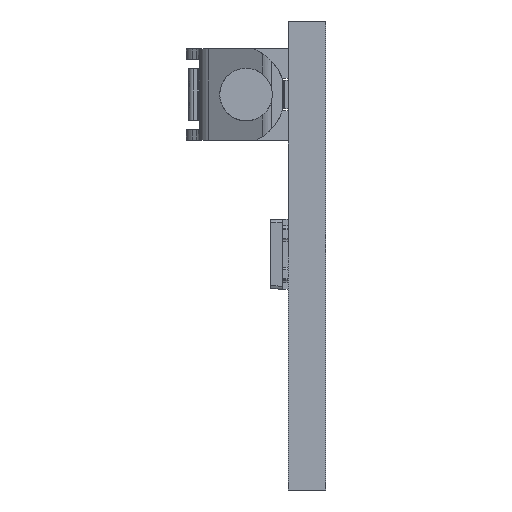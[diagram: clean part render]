
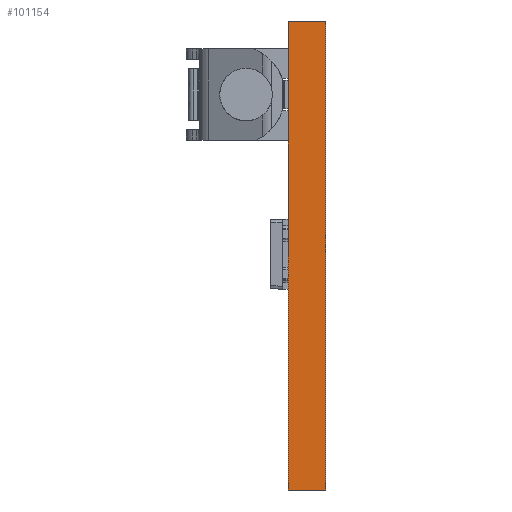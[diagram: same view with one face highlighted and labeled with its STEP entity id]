
A CAD part, left-side view. The second image highlights one B-rep face of the part: STEP entity #101154.
In plain terms, the highlighted planar face has unit normal (-1, 0, 0).
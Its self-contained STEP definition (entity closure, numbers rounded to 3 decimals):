
#9902=DIRECTION('',(0.,0.,1.));
#9903=VECTOR('',#9902,20.);
#9904=CARTESIAN_POINT('',(-69.5,0.,-10.));
#9905=LINE('',#9904,#9903);
#29838=DIRECTION('',(0.,-1.,0.));
#29839=VECTOR('',#29838,1.6);
#29840=CARTESIAN_POINT('',(-69.5,0.,-10.));
#29841=LINE('',#29840,#29839);
#29842=DIRECTION('',(0.,-1.,0.));
#29843=VECTOR('',#29842,1.6);
#29844=CARTESIAN_POINT('',(-69.5,0.,10.));
#29845=LINE('',#29844,#29843);
#29920=DIRECTION('',(0.,0.,1.));
#29921=VECTOR('',#29920,20.);
#29922=CARTESIAN_POINT('',(-69.5,-1.6,-10.));
#29923=LINE('',#29922,#29921);
#30566=CARTESIAN_POINT('',(-69.5,0.,-10.));
#30567=VERTEX_POINT('',#30566);
#30568=CARTESIAN_POINT('',(-69.5,0.,10.));
#30569=VERTEX_POINT('',#30568);
#30592=CARTESIAN_POINT('',(-69.5,-1.6,-10.));
#30593=VERTEX_POINT('',#30592);
#30594=CARTESIAN_POINT('',(-69.5,-1.6,10.));
#30595=VERTEX_POINT('',#30594);
#101141=CARTESIAN_POINT('',(-69.5,0.,-10.));
#101142=DIRECTION('',(-1.,0.,0.));
#101143=DIRECTION('',(0.,0.,1.));
#101144=AXIS2_PLACEMENT_3D('',#101141,#101142,#101143);
#101145=PLANE('',#101144);
#101146=ORIENTED_EDGE('',*,*,#42035,.T.);
#101148=ORIENTED_EDGE('',*,*,#101147,.T.);
#101150=ORIENTED_EDGE('',*,*,#101149,.F.);
#101151=ORIENTED_EDGE('',*,*,#101126,.F.);
#101152=EDGE_LOOP('',(#101146,#101148,#101150,#101151));
#101153=FACE_OUTER_BOUND('',#101152,.F.);
#42035=EDGE_CURVE('',#30567,#30569,#9905,.T.);
#101126=EDGE_CURVE('',#30567,#30593,#29841,.T.);
#101147=EDGE_CURVE('',#30569,#30595,#29845,.T.);
#101149=EDGE_CURVE('',#30593,#30595,#29923,.T.);
#101154=ADVANCED_FACE('',(#101153),#101145,.T.);
